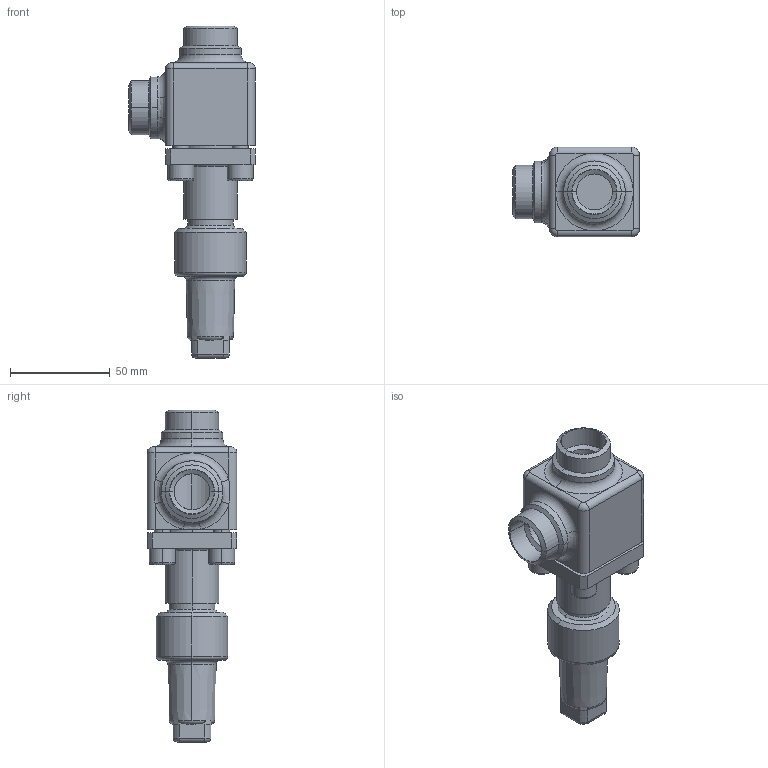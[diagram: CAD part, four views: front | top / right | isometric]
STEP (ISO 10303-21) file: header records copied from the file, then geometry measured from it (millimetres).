
FILE_DESCRIPTION (( 'STEP AP214' ), '1' );
FILE_NAME ('HRAR92400-DN020_R1_PS40.STEP', '2006-05-02T07:32:03', ( 'Herr Grams' ), ( 'AWP GmbH' ), 'SwSTEP 2.0', 'SolidWorks 2002296', '' );
FILE_SCHEMA (( 'AUTOMOTIVE_DESIGN' ));
Length unit declared in the file: millimetre
Products named in the file (6): HRAR92400-DN020_R1_PS40; Gehäuse96400E11-DN20_PS40_R1_Standard; Kappe96300E10_DN6-20_Standard; AVR96300E11_Deck+Schr-DN20_Standard; Deckel96300E11-DN20_PS40_Standard; Zylinderschraube-DIN912_M 8x 20
Assembly tree (8 placements, depth 3):
  HRAR92400-DN020_R1_PS40
    AVR96300E11_Deck+Schr-DN20_Standard
      Zylinderschraube-DIN912_M 8x 20  x4
      Deckel96300E11-DN20_PS40_Standard
    Gehäuse96400E11-DN20_PS40_R1_Standard
    Kappe96300E10_DN6-20_Standard
Bounding box: 63.5 x 45 x 166.5 mm (x, y, z)
Volume: 147814.4 mm3; surface area: 43859.8 mm2
Topology: 7 solids, 7 shells, 234 faces, 521 edges, 318 vertices
Faces by surface type: cylinder 86, plane 81, torus 32, cone 32, bspline 3
Entity records: 8423 total; most frequent: CARTESIAN_POINT 3569, DIRECTION 952, ORIENTED_EDGE 814, EDGE_CURVE 407, AXIS2_PLACEMENT_3D 394, VERTEX_POINT 246, CIRCLE 205, EDGE_LOOP 203
